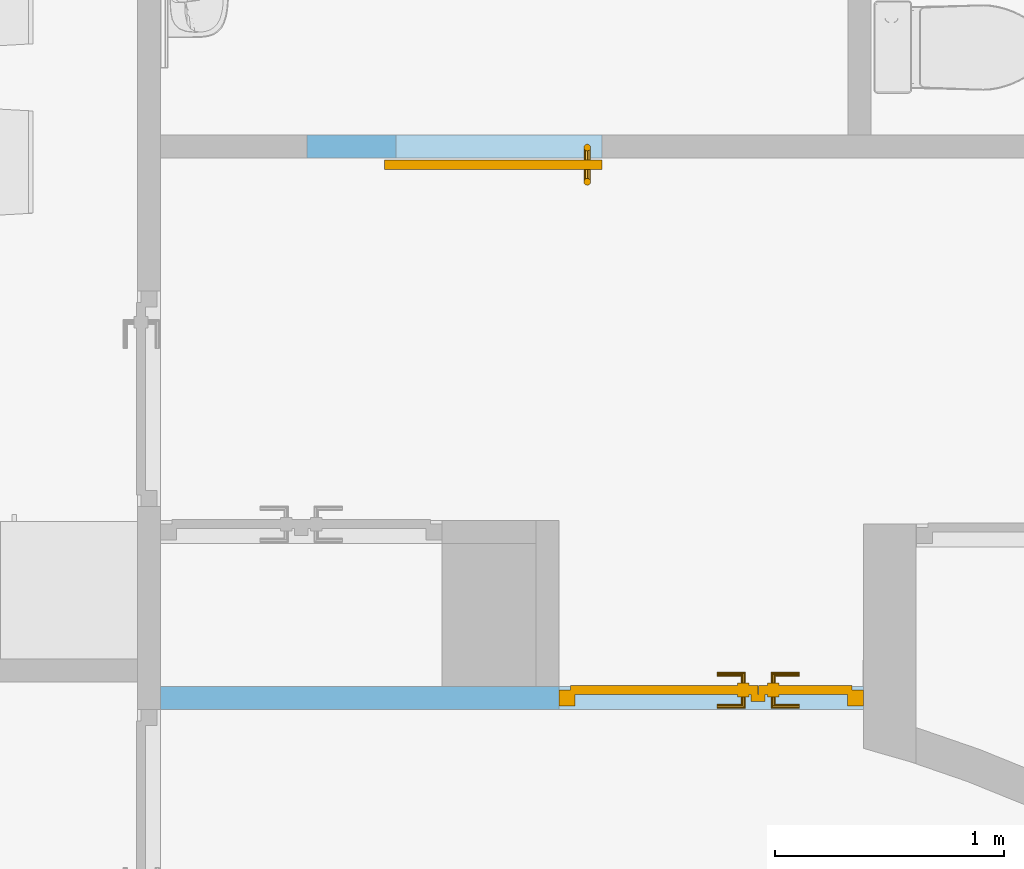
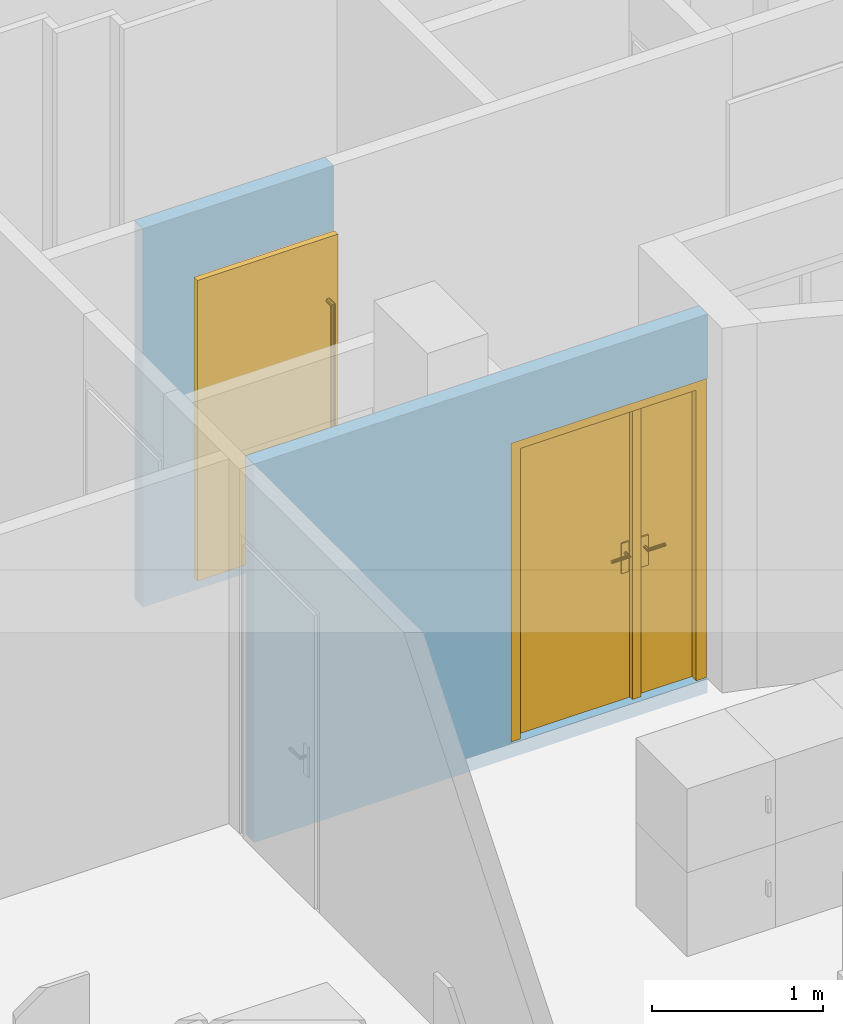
"""IFC4 building model written with IfcOpenShell, lengths in metres."""

from ifc_helpers import new_model, entity, si_unit, converted_unit, derived_unit, frame, frame_2d, origin, origin_with_axes, place, context, subcontext, project, spatial, polyline, rectangle, outline, extrude, faceted_brep, source, transform, mapped, material, layer, layer_set, layer_usage, element, fill, save


model = new_model("IFC4")

# Units and contexts
model_context = context("Model", 3, precision=1e-05, world=origin())
body_context = subcontext(model_context, "Body", "Model", "MODEL_VIEW")
ifc_project = project(units=[si_unit("LENGTHUNIT", "METRE"), si_unit("AREAUNIT", "SQUARE_METRE"), si_unit("VOLUMEUNIT", "CUBIC_METRE"), si_unit("MASSUNIT", "GRAM", prefix="KILO"), converted_unit("PLANEANGLEUNIT", "DEGREE", entity("IfcPlaneAngleMeasure", 0.0174532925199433), si_unit("PLANEANGLEUNIT", "RADIAN"), dimensions=[0, 0, 0, 0, 0, 0, 0]), derived_unit("THERMALTRANSMITTANCEUNIT", [(si_unit("POWERUNIT", "WATT"), 1), (si_unit("THERMODYNAMICTEMPERATUREUNIT", "KELVIN"), -1), (si_unit("LENGTHUNIT", "METRE"), -2)]), derived_unit("VOLUMETRICFLOWRATEUNIT", [(si_unit("LENGTHUNIT", "METRE"), 3), (converted_unit("TIMEUNIT", "hour", entity("IfcTimeMeasure", 3600.0), si_unit("TIMEUNIT", "SECOND"), dimensions=[0, 0, 1, 0, 0, 0, 0]), -1), (si_unit("LENGTHUNIT", "METRE"), -1)])], contexts=[model_context])

# Building, storeys
building_placement = place(None, origin())
building = spatial("IfcBuilding", under=ifc_project, at=building_placement, Name="HABITATGE PLURIFAMILIAR", CompositionType="ELEMENT")
storey_1_placement = place(building_placement, frame((0.0, 0.0, 18.29)))
storey_1 = spatial("IfcBuildingStorey", under=building, at=storey_1_placement, Name="PLANTA CINQUENA", CompositionType="ELEMENT", Elevation=18.29)
storey_2_placement = place(storey_1_placement, frame((0.0, 0.0, 15.28)))
storey_2 = spatial("IfcBuildingStorey", under=storey_1, at=storey_2_placement, Name="NOU", CompositionType="PARTIAL")

# Wall, opening, door
ifc_material_1 = material()
ifc_layer_1 = layer(ifc_material_1, 0.1)
ifc_layer_set_1 = layer_set([ifc_layer_1])
ifc_layer_usage_1 = layer_usage(ifc_layer_set_1, "AXIS2", "POSITIVE", 0.0)
wall_1_placement = place(storey_2_placement, frame((404.436984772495, 23.4194598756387, -15.38)))
wall_1 = element("IfcWall", 1, at=wall_1_placement, inside=storey_2, material=ifc_layer_usage_1, Name="Evans P5", context=body_context, shape_type="SweptSolid", body=[
    extrude(rectangle(XDim=3.07, YDim=0.1, at=frame_2d((1.535, 0.05), x_axis=(1.0, 0.0))), origin_with_axes(), (0.0, 0.0, 1.0), 2.71),
])
opening_1_placement = place(wall_1_placement, frame((1.74, 0.0, 0.1), z_axis=(0.0, 1.0, 0.0), x_axis=(0.0, 0.0, 1.0)))
opening_1 = element("IfcOpeningElement", 2, at=opening_1_placement, cuts=wall_1, Name="Vano porta P5", ObjectType="Opening", context=body_context, shape_type="SweptSolid", body=[
    extrude(outline(polyline([(2.15, 1.33), (2.15, 0.0), (0.0, 0.0), (0.0, 1.33), (2.15, 1.33)])), origin_with_axes(), (0.0, 0.0, 1.0), 0.1),
])
shared_shape_1 = source(origin_with_axes(), body_context, "Body", "Brep", [
    faceted_brep([(0.0, 0.07, 2.15), (0.0, 0.07, 0.0), (0.07, 0.07, 0.0), (0.07, 0.07, 2.15), (0.0, 0.0, 0.0), (0.0, 0.0, 2.15), (0.07, 0.0, 2.15), (0.07, 0.0, 0.0)], [[[0, 1, 2, 3]], [[4, 5, 6, 7]], [[1, 0, 5, 4]], [[2, 1, 4, 7]], [[3, 2, 7, 6]], [[0, 3, 6, 5]]], orient=[[False], [False], [False], [False], [False], [False]]),
    faceted_brep([(1.26, 0.07, 2.15), (1.26, 0.07, 0.0), (1.33, 0.07, 0.0), (1.33, 0.07, 2.15), (1.26, 0.0, 0.0), (1.26, 0.0, 2.15), (1.33, 0.0, 2.15), (1.33, 0.0, 0.0)], [[[0, 1, 2, 3]], [[4, 5, 6, 7]], [[1, 0, 5, 4]], [[2, 1, 4, 7]], [[3, 2, 7, 6]], [[0, 3, 6, 5]]], orient=[[False], [False], [False], [False], [False], [False]]),
    faceted_brep([(0.07, 0.07, 2.15), (0.07, 0.07, 2.08), (1.26, 0.07, 2.08), (1.26, 0.07, 2.15), (0.07, 0.0, 2.08), (0.07, 0.0, 2.15), (1.26, 0.0, 2.15), (1.26, 0.0, 2.08)], [[[0, 1, 2, 3]], [[4, 5, 6, 7]], [[1, 0, 5, 4]], [[2, 1, 4, 7]], [[3, 2, 7, 6]], [[0, 3, 6, 5]]], orient=[[False], [False], [False], [False], [False], [False]]),
    faceted_brep([(0.05, 0.09, 2.1), (0.05, 0.09, 0.0), (0.87, 0.09, 0.0), (0.87, 0.09, 2.1), (0.05, 0.05, 0.0), (0.05, 0.05, 2.1), (0.87, 0.05, 2.1), (0.87, 0.05, 0.0)], [[[0, 1, 2, 3]], [[4, 5, 6, 7]], [[1, 0, 5, 4]], [[2, 1, 4, 7]], [[3, 2, 7, 6]], [[0, 3, 6, 5]]], orient=[[False], [False], [False], [False], [False], [False]]),
    faceted_brep([(0.84, 0.05, 2.08), (0.84, 0.05, 0.0), (0.9, 0.05, 0.0), (0.9, 0.05, 2.08), (0.84, 0.02, 0.0), (0.84, 0.02, 2.08), (0.9, 0.02, 2.08), (0.9, 0.02, 0.0)], [[[0, 1, 2, 3]], [[4, 5, 6, 7]], [[1, 0, 5, 4]], [[2, 1, 4, 7]], [[3, 2, 7, 6]], [[0, 3, 6, 5]]], orient=[[False], [False], [False], [False], [False], [False]]),
    faceted_brep([(0.78, 0.05, 1.125), (0.78, 0.05, 0.91), (0.83, 0.05, 0.91), (0.83, 0.05, 1.125), (0.78, 0.04, 0.91), (0.78, 0.04, 1.125), (0.83, 0.04, 1.125), (0.83, 0.04, 0.91)], [[[0, 1, 2, 3]], [[4, 5, 6, 7]], [[1, 0, 5, 4]], [[2, 1, 4, 7]], [[3, 2, 7, 6]], [[0, 3, 6, 5]]], orient=[[False], [False], [False], [False], [False], [False]]),
    faceted_brep([(0.805, 0.04, 1.06), (0.8, 0.04, 1.05866025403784), (0.796339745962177, 0.04, 1.055), (0.795, 0.04, 1.05), (0.796339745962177, 0.04, 1.045), (0.8, 0.04, 1.04133974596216), (0.805, 0.04, 1.04), (0.81, 0.04, 1.04133974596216), (0.813660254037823, 0.04, 1.045), (0.815, 0.04, 1.05), (0.813660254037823, 0.04, 1.055), (0.81, 0.04, 1.05866025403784), (0.81, -0.005, 1.05866025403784), (0.805, 0.0, 1.06), (0.813660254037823, -0.00866025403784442, 1.055), (0.815, -0.01, 1.05), (0.813660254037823, -0.00866025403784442, 1.045), (0.81, -0.005, 1.04133974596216), (0.805, 0.0, 1.04), (0.8, 0.005, 1.04133974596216), (0.796339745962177, 0.00866025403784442, 1.045), (0.795, 0.01, 1.05), (0.796339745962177, 0.00866025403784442, 1.055), (0.8, 0.005, 1.05866025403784), (0.69, 0.0, 1.06), (0.69, -0.005, 1.05866025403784), (0.69, -0.00866025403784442, 1.055), (0.69, -0.01, 1.05), (0.69, -0.00866025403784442, 1.045), (0.69, -0.005, 1.04133974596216), (0.69, 0.0, 1.04), (0.69, 0.005, 1.04133974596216), (0.69, 0.00866025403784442, 1.045), (0.69, 0.01, 1.05), (0.69, 0.00866025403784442, 1.055), (0.69, 0.005, 1.05866025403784)], [[[0, 1, 2, 3, 4, 5, 6, 7, 8, 9, 10, 11]], [[0, 11, 12, 13]], [[11, 10, 14, 12]], [[10, 9, 15, 14]], [[9, 8, 16, 15]], [[8, 7, 17, 16]], [[7, 6, 18, 17]], [[6, 5, 19, 18]], [[5, 4, 20, 19]], [[4, 3, 21, 20]], [[3, 2, 22, 21]], [[2, 1, 23, 22]], [[1, 0, 13, 23]], [[24, 25, 26, 27, 28, 29, 30, 31, 32, 33, 34, 35]], [[13, 12, 25, 24]], [[12, 14, 26, 25]], [[14, 15, 27, 26]], [[15, 16, 28, 27]], [[16, 17, 29, 28]], [[17, 18, 30, 29]], [[18, 19, 31, 30]], [[19, 20, 32, 31]], [[20, 21, 33, 32]], [[21, 22, 34, 33]], [[22, 23, 35, 34]], [[23, 13, 24, 35]]], orient=[[False], [False], [False], [False], [False], [False], [False], [False], [False], [False], [False], [False], [False], [False], [False], [False], [False], [False], [False], [False], [False], [False], [False], [False], [False], [False]]),
    faceted_brep([(0.78, 0.09, 1.125), (0.83, 0.09, 1.125), (0.83, 0.09, 0.91), (0.78, 0.09, 0.91), (0.78, 0.1, 0.91), (0.83, 0.1, 0.91), (0.83, 0.1, 1.125), (0.78, 0.1, 1.125)], [[[0, 1, 2, 3]], [[4, 5, 6, 7]], [[3, 4, 7, 0]], [[2, 5, 4, 3]], [[1, 6, 5, 2]], [[0, 7, 6, 1]]], orient=[[False], [False], [False], [False], [False], [False]]),
    faceted_brep([(0.805, 0.1, 1.06), (0.81, 0.1, 1.05866025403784), (0.813660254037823, 0.1, 1.055), (0.815, 0.1, 1.05), (0.813660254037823, 0.1, 1.045), (0.81, 0.1, 1.04133974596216), (0.805, 0.1, 1.04), (0.8, 0.1, 1.04133974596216), (0.796339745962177, 0.1, 1.045), (0.795, 0.1, 1.05), (0.796339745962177, 0.1, 1.055), (0.8, 0.1, 1.05866025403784), (0.805, 0.14, 1.06), (0.81, 0.145, 1.05866025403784), (0.813660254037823, 0.148660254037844, 1.055), (0.815, 0.15, 1.05), (0.813660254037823, 0.148660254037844, 1.045), (0.81, 0.145, 1.04133974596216), (0.805, 0.14, 1.04), (0.8, 0.135, 1.04133974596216), (0.796339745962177, 0.131339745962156, 1.045), (0.795, 0.13, 1.05), (0.796339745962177, 0.131339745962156, 1.055), (0.8, 0.135, 1.05866025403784), (0.69, 0.14, 1.06), (0.69, 0.135, 1.05866025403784), (0.69, 0.131339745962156, 1.055), (0.69, 0.13, 1.05), (0.69, 0.131339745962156, 1.045), (0.69, 0.135, 1.04133974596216), (0.69, 0.14, 1.04), (0.69, 0.145, 1.04133974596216), (0.69, 0.148660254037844, 1.045), (0.69, 0.15, 1.05), (0.69, 0.148660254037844, 1.055), (0.69, 0.145, 1.05866025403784)], [[[0, 1, 2, 3, 4, 5, 6, 7, 8, 9, 10, 11]], [[0, 12, 13, 1]], [[1, 13, 14, 2]], [[2, 14, 15, 3]], [[3, 15, 16, 4]], [[4, 16, 17, 5]], [[5, 17, 18, 6]], [[6, 18, 19, 7]], [[7, 19, 20, 8]], [[8, 20, 21, 9]], [[9, 21, 22, 10]], [[10, 22, 23, 11]], [[11, 23, 12, 0]], [[24, 25, 26, 27, 28, 29, 30, 31, 32, 33, 34, 35]], [[12, 24, 35, 13]], [[13, 35, 34, 14]], [[14, 34, 33, 15]], [[15, 33, 32, 16]], [[16, 32, 31, 17]], [[17, 31, 30, 18]], [[18, 30, 29, 19]], [[19, 29, 28, 20]], [[20, 28, 27, 21]], [[21, 27, 26, 22]], [[22, 26, 25, 23]], [[23, 25, 24, 12]]], orient=[[False], [False], [False], [False], [False], [False], [False], [False], [False], [False], [False], [False], [False], [False], [False], [False], [False], [False], [False], [False], [False], [False], [False], [False], [False], [False]]),
    faceted_brep([(0.871, 0.09, 2.1), (0.871, 0.09, 0.0), (1.28, 0.09, 0.0), (1.28, 0.09, 2.1), (0.871, 0.05, 0.0), (0.871, 0.05, 2.1), (1.28, 0.05, 2.1), (1.28, 0.05, 0.0)], [[[0, 1, 2, 3]], [[4, 5, 6, 7]], [[1, 0, 5, 4]], [[2, 1, 4, 7]], [[3, 2, 7, 6]], [[0, 3, 6, 5]]], orient=[[False], [False], [False], [False], [False], [False]]),
    faceted_brep([(0.911, 0.05, 1.125), (0.911, 0.05, 0.91), (0.961, 0.05, 0.91), (0.961, 0.05, 1.125), (0.911, 0.04, 0.91), (0.911, 0.04, 1.125), (0.961, 0.04, 1.125), (0.961, 0.04, 0.91)], [[[0, 1, 2, 3]], [[4, 5, 6, 7]], [[1, 0, 5, 4]], [[2, 1, 4, 7]], [[3, 2, 7, 6]], [[0, 3, 6, 5]]], orient=[[False], [False], [False], [False], [False], [False]]),
    faceted_brep([(0.936, 0.04, 1.06), (0.931, 0.04, 1.05866025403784), (0.927339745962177, 0.04, 1.055), (0.926, 0.04, 1.05), (0.927339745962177, 0.04, 1.045), (0.931, 0.04, 1.04133974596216), (0.936, 0.04, 1.04), (0.941, 0.04, 1.04133974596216), (0.944660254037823, 0.04, 1.045), (0.946, 0.04, 1.05), (0.944660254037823, 0.04, 1.055), (0.941, 0.04, 1.05866025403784), (0.936, 0.0, 1.06), (0.931, -0.005, 1.05866025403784), (0.927339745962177, -0.00866025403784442, 1.055), (0.926, -0.01, 1.05), (0.927339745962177, -0.00866025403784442, 1.045), (0.931, -0.005, 1.04133974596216), (0.936, 0.0, 1.04), (0.941, 0.005, 1.04133974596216), (0.944660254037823, 0.00866025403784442, 1.045), (0.946, 0.01, 1.05), (0.944660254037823, 0.00866025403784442, 1.055), (0.941, 0.005, 1.05866025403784), (1.051, 0.0, 1.06), (1.051, 0.005, 1.05866025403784), (1.051, 0.00866025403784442, 1.055), (1.051, 0.01, 1.05), (1.051, 0.00866025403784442, 1.045), (1.051, 0.005, 1.04133974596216), (1.051, 0.0, 1.04), (1.051, -0.005, 1.04133974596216), (1.051, -0.00866025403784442, 1.045), (1.051, -0.01, 1.05), (1.051, -0.00866025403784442, 1.055), (1.051, -0.005, 1.05866025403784)], [[[0, 1, 2, 3, 4, 5, 6, 7, 8, 9, 10, 11]], [[0, 12, 13, 1]], [[1, 13, 14, 2]], [[2, 14, 15, 3]], [[3, 15, 16, 4]], [[4, 16, 17, 5]], [[5, 17, 18, 6]], [[6, 18, 19, 7]], [[7, 19, 20, 8]], [[8, 20, 21, 9]], [[9, 21, 22, 10]], [[10, 22, 23, 11]], [[11, 23, 12, 0]], [[24, 25, 26, 27, 28, 29, 30, 31, 32, 33, 34, 35]], [[12, 24, 35, 13]], [[13, 35, 34, 14]], [[14, 34, 33, 15]], [[15, 33, 32, 16]], [[16, 32, 31, 17]], [[17, 31, 30, 18]], [[18, 30, 29, 19]], [[19, 29, 28, 20]], [[20, 28, 27, 21]], [[21, 27, 26, 22]], [[22, 26, 25, 23]], [[23, 25, 24, 12]]], orient=[[False], [False], [False], [False], [False], [False], [False], [False], [False], [False], [False], [False], [False], [False], [False], [False], [False], [False], [False], [False], [False], [False], [False], [False], [False], [False]]),
    faceted_brep([(0.911, 0.09, 1.125), (0.961, 0.09, 1.125), (0.961, 0.09, 0.91), (0.911, 0.09, 0.91), (0.911, 0.1, 0.91), (0.961, 0.1, 0.91), (0.961, 0.1, 1.125), (0.911, 0.1, 1.125)], [[[0, 1, 2, 3]], [[4, 5, 6, 7]], [[3, 4, 7, 0]], [[2, 5, 4, 3]], [[1, 6, 5, 2]], [[0, 7, 6, 1]]], orient=[[False], [False], [False], [False], [False], [False]]),
    faceted_brep([(0.936, 0.1, 1.06), (0.941, 0.1, 1.05866025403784), (0.944660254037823, 0.1, 1.055), (0.946, 0.1, 1.05), (0.944660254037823, 0.1, 1.045), (0.941, 0.1, 1.04133974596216), (0.936, 0.1, 1.04), (0.931, 0.1, 1.04133974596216), (0.927339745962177, 0.1, 1.045), (0.926, 0.1, 1.05), (0.927339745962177, 0.1, 1.055), (0.931, 0.1, 1.05866025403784), (0.931, 0.145, 1.05866025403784), (0.936, 0.14, 1.06), (0.927339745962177, 0.148660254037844, 1.055), (0.926, 0.15, 1.05), (0.927339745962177, 0.148660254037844, 1.045), (0.931, 0.145, 1.04133974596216), (0.936, 0.14, 1.04), (0.941, 0.135, 1.04133974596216), (0.944660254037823, 0.131339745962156, 1.045), (0.946, 0.13, 1.05), (0.944660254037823, 0.131339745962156, 1.055), (0.941, 0.135, 1.05866025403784), (1.051, 0.14, 1.06), (1.051, 0.145, 1.05866025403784), (1.051, 0.148660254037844, 1.055), (1.051, 0.15, 1.05), (1.051, 0.148660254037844, 1.045), (1.051, 0.145, 1.04133974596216), (1.051, 0.14, 1.04), (1.051, 0.135, 1.04133974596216), (1.051, 0.131339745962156, 1.045), (1.051, 0.13, 1.05), (1.051, 0.131339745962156, 1.055), (1.051, 0.135, 1.05866025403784)], [[[0, 1, 2, 3, 4, 5, 6, 7, 8, 9, 10, 11]], [[0, 11, 12, 13]], [[11, 10, 14, 12]], [[10, 9, 15, 14]], [[9, 8, 16, 15]], [[8, 7, 17, 16]], [[7, 6, 18, 17]], [[6, 5, 19, 18]], [[5, 4, 20, 19]], [[4, 3, 21, 20]], [[3, 2, 22, 21]], [[2, 1, 23, 22]], [[1, 0, 13, 23]], [[24, 25, 26, 27, 28, 29, 30, 31, 32, 33, 34, 35]], [[13, 12, 25, 24]], [[12, 14, 26, 25]], [[14, 15, 27, 26]], [[15, 16, 28, 27]], [[16, 17, 29, 28]], [[17, 18, 30, 29]], [[18, 19, 31, 30]], [[19, 20, 32, 31]], [[20, 21, 33, 32]], [[21, 22, 34, 33]], [[22, 23, 35, 34]], [[23, 13, 24, 35]]], orient=[[False], [False], [False], [False], [False], [False], [False], [False], [False], [False], [False], [False], [False], [False], [False], [False], [False], [False], [False], [False], [False], [False], [False], [False], [False], [False]]),
])
door_1_placement = place(opening_1_placement, frame((0.0, 0.0, 0.015), z_axis=(1.0, 0.0, 0.0), x_axis=(0.0, 1.0, 0.0)))
door_1 = element("IfcDoor", 3, at=door_1_placement, inside=storey_2, Name="Porta P5", OperationType="USERDEFINED", OverallHeight=2.15, OverallWidth=1.33, PredefinedType="DOOR", context=body_context, shape_type="MappedRepresentation", body=[
    mapped(shared_shape_1, transform((0.0, 0.0, 0.0), x_axis=(1.0, 0.0, 0.0), y_axis=(0.0, 1.0, 0.0), z_axis=(0.0, 0.0, 1.0), scale=1.0)),
])
fill(opening_1, door_1)

ifc_material_2 = material()
ifc_layer_2 = layer(ifc_material_2, 0.1)
ifc_layer_set_2 = layer_set([ifc_layer_2])
ifc_layer_usage_2 = layer_usage(ifc_layer_set_2, "AXIS2", "POSITIVE", 0.0)
wall_2_placement = place(storey_2_placement, frame((405.076984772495, 25.8294598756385, -15.38)))
wall_2 = element("IfcWall", 4, at=wall_2_placement, inside=storey_2, material=ifc_layer_usage_2, Name="Evans P5", context=body_context, shape_type="SweptSolid", body=[
    extrude(rectangle(XDim=1.28889983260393, YDim=0.1, at=frame_2d((0.644449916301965, 0.05), x_axis=(1.0, 0.0))), origin_with_axes(), (0.0, 0.0, 1.0), 2.71),
])
opening_2_placement = place(wall_2_placement, frame((1.28889983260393, 0.1, 0.1), z_axis=(0.0, -1.0, 0.0), x_axis=(0.0, 0.0, 1.0)))
opening_2 = element("IfcOpeningElement", 5, at=opening_2_placement, cuts=wall_2, Name="Vano porta P5", ObjectType="Opening", context=body_context, shape_type="SweptSolid", body=[
    extrude(outline(polyline([(2.15, 0.9), (2.15, 0.0), (0.0, 0.0), (0.0, 0.9), (2.15, 0.9)])), origin_with_axes(), (0.0, 0.0, 1.0), 0.1),
])
shared_shape_2 = source(origin_with_axes(), body_context, "Body", "Brep", [
    faceted_brep([(0.0, 0.15, 2.15), (0.0, 0.15, 0.0), (0.95, 0.15, 0.0), (0.95, 0.15, 2.15), (0.0, 0.11, 0.0), (0.0, 0.11, 2.15), (0.95, 0.11, 2.15), (0.95, 0.11, 0.0)], [[[0, 1, 2, 3]], [[4, 5, 6, 7]], [[1, 0, 5, 4]], [[2, 1, 4, 7]], [[3, 2, 7, 6]], [[0, 3, 6, 5]]], orient=[[False], [False], [False], [False], [False], [False]]),
    faceted_brep([(0.08, 0.11, 1.7), (0.0779903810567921, 0.11, 1.7075), (0.0725, 0.11, 1.71299038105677), (0.065, 0.11, 1.715), (0.0575, 0.11, 1.71299038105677), (0.0520096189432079, 0.11, 1.7075), (0.05, 0.11, 1.7), (0.0520096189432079, 0.11, 1.6925), (0.0575, 0.11, 1.68700961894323), (0.065, 0.11, 1.685), (0.0725, 0.11, 1.68700961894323), (0.0779903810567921, 0.11, 1.6925), (0.08, 0.055, 1.7), (0.0779903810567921, 0.0475, 1.7075), (0.0725, 0.0420096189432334, 1.71299038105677), (0.065, 0.04, 1.715), (0.0575, 0.0420096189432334, 1.71299038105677), (0.0520096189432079, 0.0475, 1.7075), (0.05, 0.055, 1.7), (0.0520096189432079, 0.0625, 1.6925), (0.0575, 0.0679903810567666, 1.68700961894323), (0.065, 0.07, 1.685), (0.0725, 0.0679903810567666, 1.68700961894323), (0.0779903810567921, 0.0625, 1.6925), (0.08, 0.055, 0.4), (0.0779903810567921, 0.0475, 0.3925), (0.0725, 0.0420096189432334, 0.387009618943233), (0.065, 0.04, 0.385), (0.0575, 0.0420096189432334, 0.387009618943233), (0.0520096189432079, 0.0475, 0.3925), (0.05, 0.055, 0.4), (0.0520096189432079, 0.0625, 0.4075), (0.0575, 0.0679903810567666, 0.412990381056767), (0.065, 0.07, 0.415), (0.0725, 0.0679903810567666, 0.412990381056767), (0.0779903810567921, 0.0625, 0.4075), (0.08, 0.11, 0.4), (0.0779903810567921, 0.11, 0.4075), (0.0725, 0.11, 0.412990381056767), (0.065, 0.11, 0.415), (0.0575, 0.11, 0.412990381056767), (0.0520096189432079, 0.11, 0.4075), (0.05, 0.11, 0.4), (0.0520096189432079, 0.11, 0.3925), (0.0575, 0.11, 0.387009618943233), (0.065, 0.11, 0.385), (0.0725, 0.11, 0.387009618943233), (0.0779903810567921, 0.11, 0.3925)], [[[0, 1, 2, 3, 4, 5, 6, 7, 8, 9, 10, 11]], [[0, 12, 13, 1]], [[1, 13, 14, 2]], [[2, 14, 15, 3]], [[3, 15, 16, 4]], [[4, 16, 17, 5]], [[5, 17, 18, 6]], [[6, 18, 19, 7]], [[7, 19, 20, 8]], [[8, 20, 21, 9]], [[9, 21, 22, 10]], [[10, 22, 23, 11]], [[11, 23, 12, 0]], [[12, 24, 25, 13]], [[13, 25, 26, 14]], [[14, 26, 27, 15]], [[15, 27, 28, 16]], [[16, 28, 29, 17]], [[17, 29, 30, 18]], [[18, 30, 31, 19]], [[19, 31, 32, 20]], [[20, 32, 33, 21]], [[21, 33, 34, 22]], [[22, 34, 35, 23]], [[23, 35, 24, 12]], [[36, 37, 38, 39, 40, 41, 42, 43, 44, 45, 46, 47]], [[24, 36, 47, 25]], [[25, 47, 46, 26]], [[26, 46, 45, 27]], [[27, 45, 44, 28]], [[28, 44, 43, 29]], [[29, 43, 42, 30]], [[30, 42, 41, 31]], [[31, 41, 40, 32]], [[32, 40, 39, 33]], [[33, 39, 38, 34]], [[34, 38, 37, 35]], [[35, 37, 36, 24]]], orient=[[False], [False], [False], [False], [False], [False], [False], [False], [False], [False], [False], [False], [False], [False], [False], [False], [False], [False], [False], [False], [False], [False], [False], [False], [False], [False], [False], [False], [False], [False], [False], [False], [False], [False], [False], [False], [False], [False]]),
    faceted_brep([(0.08, 0.15, 1.7), (0.0779903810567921, 0.15, 1.6925), (0.0725, 0.15, 1.68700961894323), (0.065, 0.15, 1.685), (0.0575, 0.15, 1.68700961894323), (0.0520096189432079, 0.15, 1.6925), (0.05, 0.15, 1.7), (0.0520096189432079, 0.15, 1.7075), (0.0575, 0.15, 1.71299038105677), (0.065, 0.15, 1.715), (0.0725, 0.15, 1.71299038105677), (0.0779903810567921, 0.15, 1.7075), (0.0779903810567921, 0.2125, 1.7075), (0.08, 0.205, 1.7), (0.0725, 0.217990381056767, 1.71299038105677), (0.065, 0.22, 1.715), (0.0575, 0.217990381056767, 1.71299038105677), (0.0520096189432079, 0.2125, 1.7075), (0.05, 0.205, 1.7), (0.0520096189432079, 0.1975, 1.6925), (0.0575, 0.192009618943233, 1.68700961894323), (0.065, 0.19, 1.685), (0.0725, 0.192009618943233, 1.68700961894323), (0.0779903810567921, 0.1975, 1.6925), (0.0779903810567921, 0.2125, 0.3925), (0.08, 0.205, 0.4), (0.0725, 0.217990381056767, 0.387009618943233), (0.065, 0.22, 0.385), (0.0575, 0.217990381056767, 0.387009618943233), (0.0520096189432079, 0.2125, 0.3925), (0.05, 0.205, 0.4), (0.0520096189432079, 0.1975, 0.4075), (0.0575, 0.192009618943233, 0.412990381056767), (0.065, 0.19, 0.415), (0.0725, 0.192009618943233, 0.412990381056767), (0.0779903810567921, 0.1975, 0.4075), (0.08, 0.15, 0.4), (0.0779903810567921, 0.15, 0.3925), (0.0725, 0.15, 0.387009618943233), (0.065, 0.15, 0.385), (0.0575, 0.15, 0.387009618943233), (0.0520096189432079, 0.15, 0.3925), (0.05, 0.15, 0.4), (0.0520096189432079, 0.15, 0.4075), (0.0575, 0.15, 0.412990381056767), (0.065, 0.15, 0.415), (0.0725, 0.15, 0.412990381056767), (0.0779903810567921, 0.15, 0.4075)], [[[0, 1, 2, 3, 4, 5, 6, 7, 8, 9, 10, 11]], [[0, 11, 12, 13]], [[11, 10, 14, 12]], [[10, 9, 15, 14]], [[9, 8, 16, 15]], [[8, 7, 17, 16]], [[7, 6, 18, 17]], [[6, 5, 19, 18]], [[5, 4, 20, 19]], [[4, 3, 21, 20]], [[3, 2, 22, 21]], [[2, 1, 23, 22]], [[1, 0, 13, 23]], [[13, 12, 24, 25]], [[12, 14, 26, 24]], [[14, 15, 27, 26]], [[15, 16, 28, 27]], [[16, 17, 29, 28]], [[17, 18, 30, 29]], [[18, 19, 31, 30]], [[19, 20, 32, 31]], [[20, 21, 33, 32]], [[21, 22, 34, 33]], [[22, 23, 35, 34]], [[23, 13, 25, 35]], [[36, 37, 38, 39, 40, 41, 42, 43, 44, 45, 46, 47]], [[25, 24, 37, 36]], [[24, 26, 38, 37]], [[26, 27, 39, 38]], [[27, 28, 40, 39]], [[28, 29, 41, 40]], [[29, 30, 42, 41]], [[30, 31, 43, 42]], [[31, 32, 44, 43]], [[32, 33, 45, 44]], [[33, 34, 46, 45]], [[34, 35, 47, 46]], [[35, 25, 36, 47]]], orient=[[False], [False], [False], [False], [False], [False], [False], [False], [False], [False], [False], [False], [False], [False], [False], [False], [False], [False], [False], [False], [False], [False], [False], [False], [False], [False], [False], [False], [False], [False], [False], [False], [False], [False], [False], [False], [False], [False]]),
])
door_2_placement = place(opening_2_placement, frame((0.0, 0.0, 0.0), z_axis=(1.0, 0.0, 0.0), x_axis=(0.0, 1.0, 0.0)))
door_2 = element("IfcDoor", 6, at=door_2_placement, inside=storey_2, Name="Porta P5", OperationType="USERDEFINED", OverallHeight=2.15, OverallWidth=0.9, PredefinedType="DOOR", context=body_context, shape_type="MappedRepresentation", body=[
    mapped(shared_shape_2, transform((0.0, 0.0, 0.0), x_axis=(1.0, 0.0, 0.0), y_axis=(0.0, 1.0, 0.0), z_axis=(0.0, 0.0, 1.0), scale=1.0)),
])
fill(opening_2, door_2)

save(model, "model.ifc")
